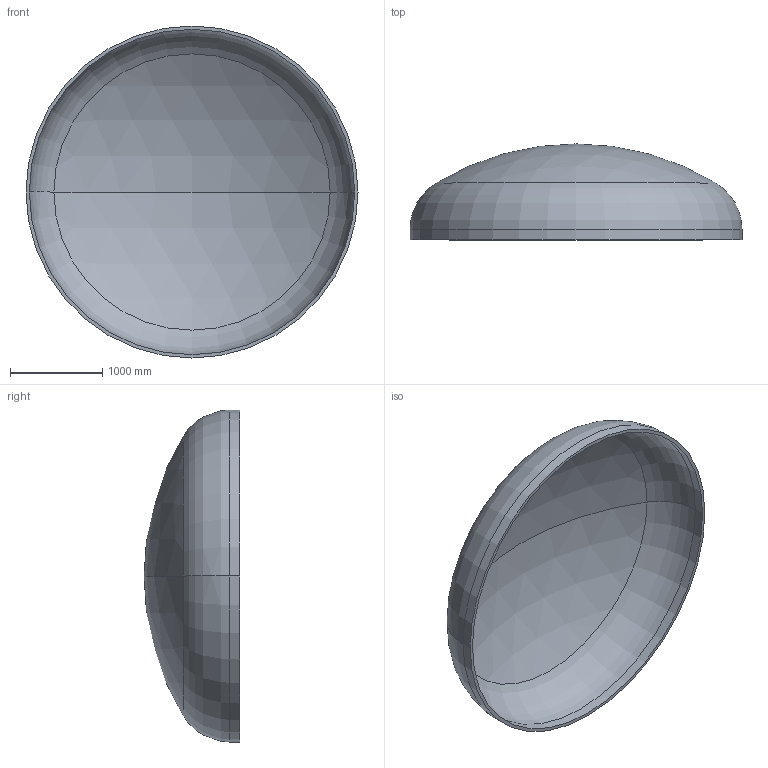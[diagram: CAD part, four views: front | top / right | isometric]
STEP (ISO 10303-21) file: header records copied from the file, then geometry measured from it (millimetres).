
FILE_DESCRIPTION (( 'STEP AP203' ), '1' );
FILE_NAME ('DIN 28013 Korbbogenform_-_Boden DIN 28013 - 3600 x 110 - I - s=36.step', '2016-07-01T20:21:57', ( '' ), ( '' ), 'SwSTEP 2.0', 'SolidWorks 2013', '' );
FILE_SCHEMA (( 'CONFIG_CONTROL_DESIGN' ));
Length unit declared in the file: millimetre
Products named in the file (1): DIN 28013 Korbbogenform_-_Boden DIN 28013 - 3600 x 110 - I - s=36
Bounding box: 3600 x 1040.06 x 3600 mm (x, y, z)
Volume: 545285318.3 mm3; surface area: 30699410.9 mm2
Topology: 1 solids, 1 shells, 13 faces, 24 edges, 14 vertices
Faces by surface type: torus 4, cylinder 4, sphere 4, plane 1
Entity records: 407 total; most frequent: DIRECTION 72, CARTESIAN_POINT 52, ORIENTED_EDGE 48, AXIS2_PLACEMENT_3D 34, EDGE_CURVE 24, CIRCLE 20, EDGE_LOOP 14, VERTEX_POINT 14
